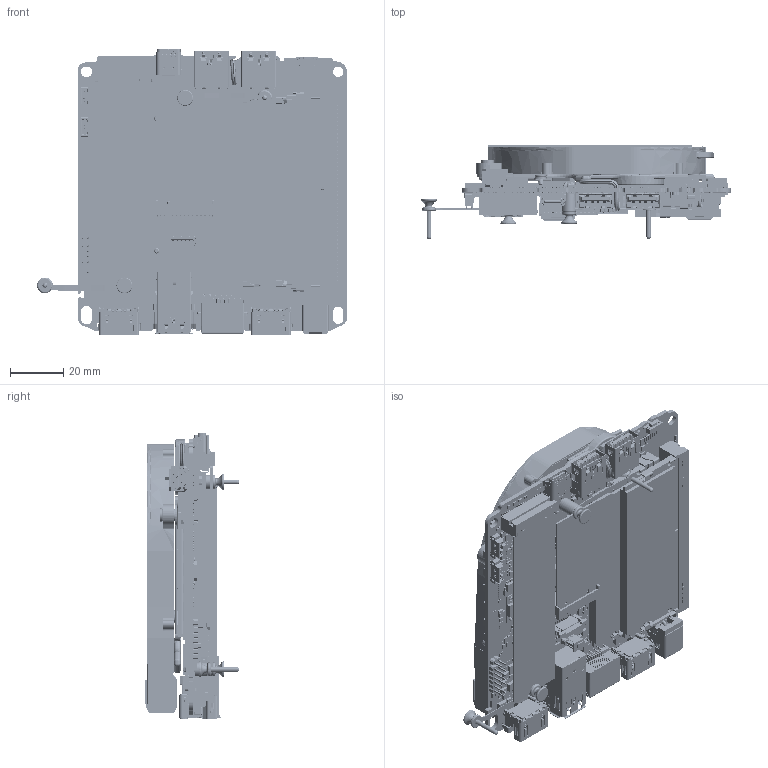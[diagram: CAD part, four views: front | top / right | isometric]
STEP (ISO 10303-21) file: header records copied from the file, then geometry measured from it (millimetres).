
FILE_DESCRIPTION((''),'2;1');
FILE_NAME('PCBA_NUC14R3B_RV_NUC_ASM','2023-04-25T16:32:21',('jessechien'),(''),'CREO PARAMETRIC BY PTC INC, 2020354','CREO PARAMETRIC BY PTC INC, 2020354','');
FILE_SCHEMA(('AUTOMOTIVE_DESIGN { 1 0 10303 214 1 1 1 1 }'));
Products named in the file (64): PCB_OUTLINE_RV_NUC; EMN_PCBA_RV_NUC_20230421; EMN_DXF_PCBA_RV_NUC_ASM; M67528_R05_MTL-H_682; M91268_R02_MTL-U_281; 10-084-024102_LOTES; 11-371-002220_SINGATRON; 11-367-012265_LUXSHARE-ICT; 10-084-013063_LOTES; 10-083-019792_FREEPORT; 10-084-009146_LOTES; 10-084-024101_LOTES; 11-251-004889_DIPTRONICS; 03-105-113084_HARVATEK; 10-456-067117_LOTES; CARD_M2_2280-D5-B-M; 23-620-000153_KANGYANG; M2_2280_NUC_RV_ASM; CARD_M2_2242-D5-B-M; M2_2242_NUC_RV_ASM; 11-025-262126_LOTES; CARD_DDR5; 11-025-262127_LOTES; DDR5_NUC_RV_ASM; 10-361-002396_ACES; 10-026-016390_ACES; 10-361-004400_ACES; 10-341-002832_LS; 10-342-012839_LS; 10-340-003822_LS; 10-611-002840_LS; 10-038-004330_JOINTTECH; MODULE_WIFI6E_1216_AX211; RTC_BATTERY_ADHESIVE; RTC_BATTERY_RV_NUC; CABLE_RTC_RV_NUC; RV_THM_H28_CLIP_01; RV_THM_H28_CLIP_02; RV_THM_H28_CLIP_CU_PLATE; RV_THM_H28_CLIP_ASSY_ASM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
Assembly tree (156 placements, depth 5):
  PCBA_NUC14R3B_RV_NUC_ASM
    PCB_OUTLINE_RV_NUC
    EMN_DXF_PCBA_RV_NUC_ASM
      EMN_PCBA_RV_NUC_20230421
    M67528_R05_MTL-H_682
    M91268_R02_MTL-U_281
    10-084-024102_LOTES  x2
    11-371-002220_SINGATRON
    11-367-012265_LUXSHARE-ICT
    10-084-013063_LOTES
    10-083-019792_FREEPORT  x2
    10-084-009146_LOTES  x2
    10-084-024101_LOTES
    11-251-004889_DIPTRONICS
    03-105-113084_HARVATEK
    M2_2280_NUC_RV_ASM
      10-456-067117_LOTES
      CARD_M2_2280-D5-B-M
      23-620-000153_KANGYANG
    M2_2242_NUC_RV_ASM
      10-456-067117_LOTES
      CARD_M2_2242-D5-B-M
      23-620-000153_KANGYANG
    DDR5_NUC_RV_ASM
      11-025-262126_LOTES
      CARD_DDR5  x2
      11-025-262127_LOTES
    10-361-002396_ACES
    10-026-016390_ACES
    10-361-004400_ACES  x3
    10-341-002832_LS
    10-342-012839_LS
    10-340-003822_LS
    10-611-002840_LS
    10-038-004330_JOINTTECH
    MODULE_WIFI6E_1216_AX211
    RTC_BATTERY_ADHESIVE
    RTC_BATTERY_RV_NUC
    CABLE_RTC_RV_NUC
    RV_THM_H28_ASM
      RV_THM_H28_20230411_ASM
        RV_THM_H28_CLIP_ASSY_ASM
          RV_THM_H28_CLIP_01
          RV_THM_H28_CLIP_02
          RV_THM_H28_CLIP_CU_PLATE
        RV_THM_H28_VR_PLATE
        RV_THM_H28_VR_PAD
        RV_THM_H28_LAN_PLATE
        RV_THM_H28_FAN_STANDOFF  x2
        RV_THM_H28_FIN_ASM
          RV_THM_H28_CU_FIN_15T  x78
          RV_THM_H28_CU_FIN_15T_REV
        RV_THM_H28_FIN_BASE_SPREADER
        RV_THM_H28_LAN_PAD
        RV_THM_H28_SCREW_ASSY_ASM
          RV_THM_H28_M2X3  x4
          RV_THM_H28_CLIP_O-RING_M2  x4
        RV_THM_H28_GREASE_TC-5622
        RV_THM_H28_FIN_PAD
        RV_THM_H28_LABEL
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Bounding box: 117 x 35.62 x 107.6 mm (x, y, z)
Volume: 98122.1 mm3; surface area: 190065.4 mm2
Topology: 2221 solids, 2260 shells, 53311 faces, 138964 edges, 90618 vertices
Faces by surface type: plane 37778, cylinder 13464, torus 748, bspline 681, cone 269, sphere 190, extrusion 163, revolution 18
Entity records: 1607717 total; most frequent: CARTESIAN_POINT 269578, ORIENTED_EDGE 220278, DIRECTION 215019, EDGE_CURVE 110139, VECTOR 84065, LINE 83921, VERTEX_POINT 72688, AXIS2_PLACEMENT_3D 65468
